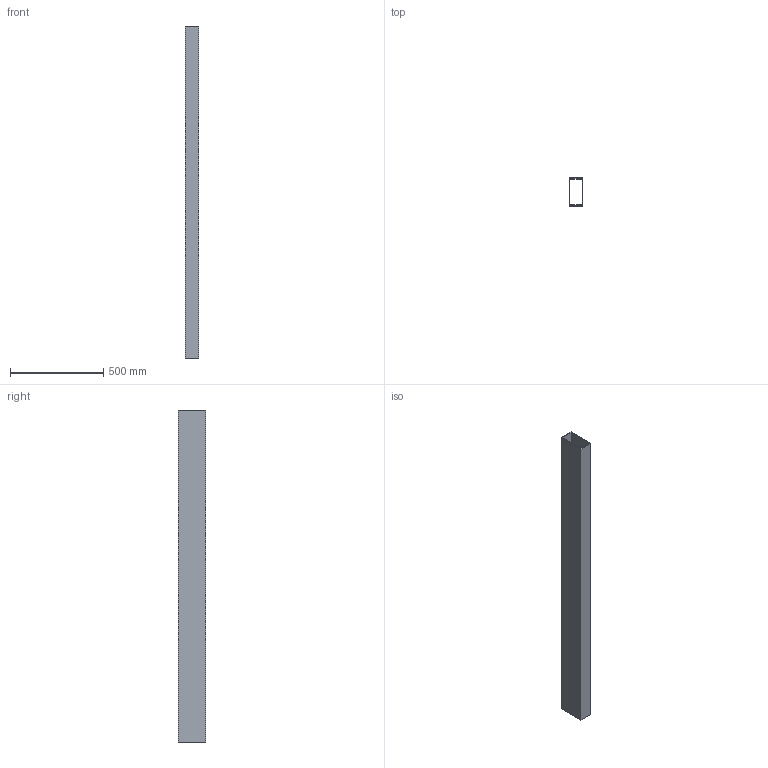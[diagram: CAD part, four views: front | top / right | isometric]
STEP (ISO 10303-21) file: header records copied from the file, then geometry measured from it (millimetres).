
FILE_DESCRIPTION(('Open CASCADE Model'),'2;1');
FILE_NAME('Open CASCADE Shape Model','2026-10-19T10:09:27',('Author'),( 'Open CASCADE'),'Open CASCADE STEP processor 8.0','Open CASCADE 8.0' ,'Unknown');
FILE_SCHEMA(('AUTOMOTIVE_DESIGN { 1 0 10303 214 1 1 1 1 }'));
Length unit declared in the file: millimetre
Products named in the file (1): AC_RHS150x75x5_L1780000 167
Bounding box: 75 x 150 x 1780 mm (x, y, z)
Volume: 3827000 mm3; surface area: 1535100 mm2
Topology: 1 solids, 1 shells, 10 faces, 24 edges, 16 vertices
Faces by surface type: plane 10
Entity records: 614 total; most frequent: CARTESIAN_POINT 99, DIRECTION 94, LINE 72, VECTOR 72, ORIENTED_EDGE 48, PCURVE 48, DEFINITIONAL_REPRESENTATION 48, EDGE_CURVE 24
